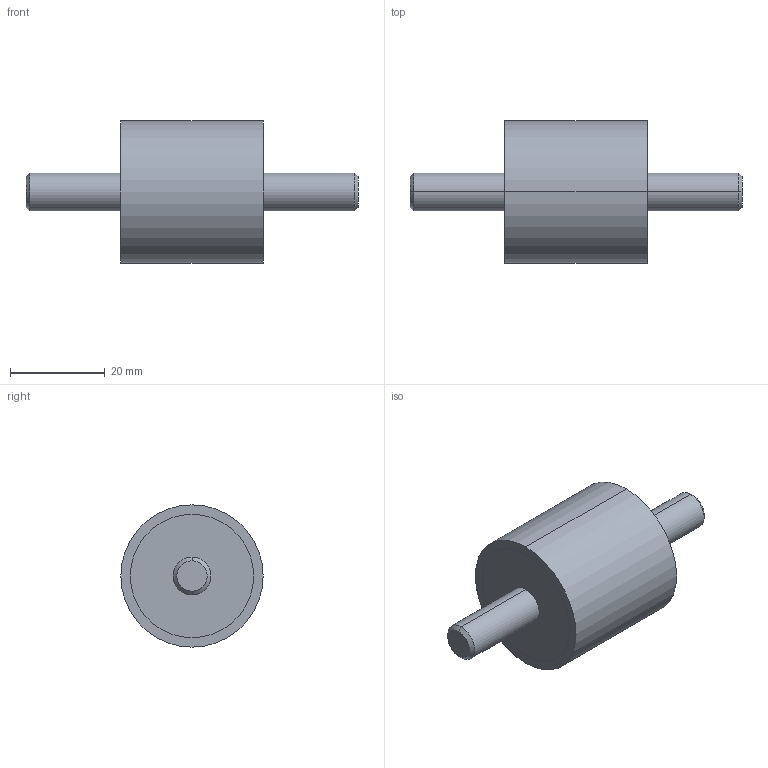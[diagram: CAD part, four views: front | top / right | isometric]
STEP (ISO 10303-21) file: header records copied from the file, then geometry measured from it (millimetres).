
FILE_DESCRIPTION (( 'STEP AP214' ), '1' );
FILE_NAME ('351-30-30-M8-SS-40.step', '2025-07-23T10:01:32', ( '' ), ( '' ), 'SwSTEP 2.0', 'SolidWorks 2022', '' );
FILE_SCHEMA (( 'AUTOMOTIVE_DESIGN' ));
Length unit declared in the file: millimetre
Products named in the file (1): 351-30-30-M8-SS-40
Bounding box: 70 x 30 x 30 mm (x, y, z)
Volume: 23191.7 mm3; surface area: 5223.4 mm2
Topology: 1 solids, 1 shells, 20 faces, 38 edges, 24 vertices
Faces by surface type: cylinder 10, plane 6, cone 4
Entity records: 636 total; most frequent: DIRECTION 104, CARTESIAN_POINT 83, ORIENTED_EDGE 76, AXIS2_PLACEMENT_3D 45, EDGE_CURVE 38, EDGE_LOOP 24, CIRCLE 24, VERTEX_POINT 24
